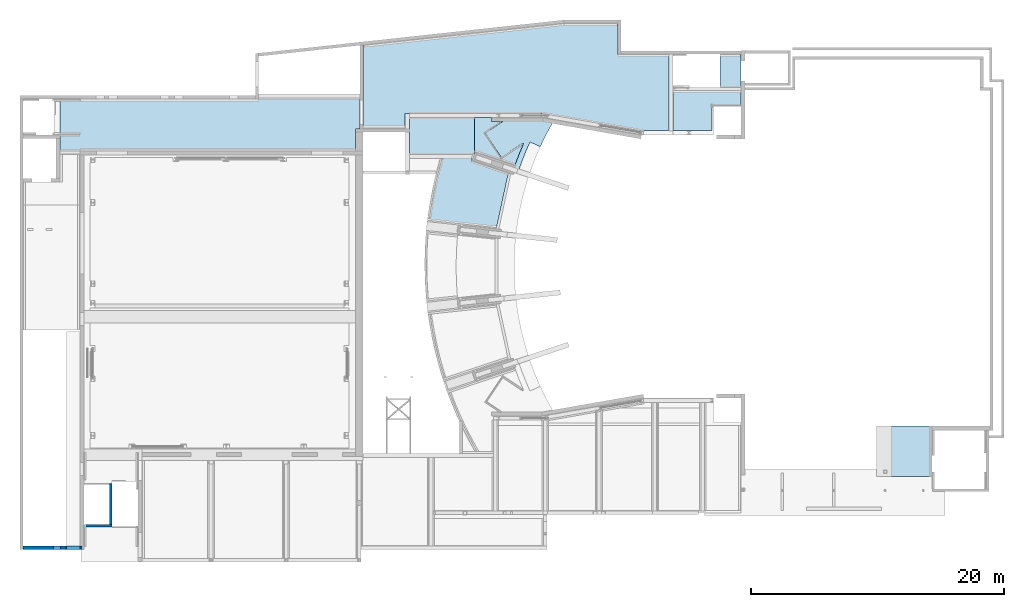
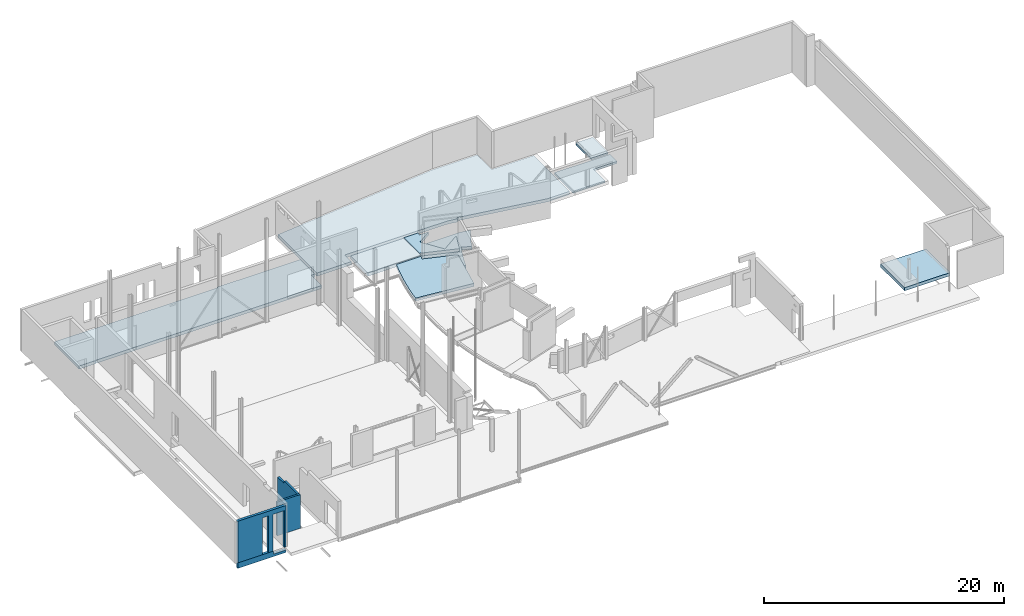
# One storey, part 25 of 37: 8 slabs, 4 walls, 18 openings.
"""IFC2X3 building model written with IfcOpenShell, lengths in millimetres."""

from ifc_helpers import new_model, entity, si_unit, converted_unit, derived_unit, direction, frame, frame_2d, origin, origin_2d_with_axis, place, context, subcontext, project, spatial, polyline, circle_curve, parameter, trimmed, segment, composite_curve, rectangle, outline, extrude, clip, bounded_halfspace, faceted_brep, material, layer, layer_set, layer_usage, type_object, element, save


model = new_model("IFC2X3")

# Units and contexts
model_context = context("Model", 3, precision=0.01, world=origin(), true_north=direction((6.12303176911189e-17, 1.0)))
body_context = subcontext(model_context, "Body", "Model", "MODEL_VIEW")
ifc_project = project(units=[si_unit("LENGTHUNIT", "METRE", prefix="MILLI"), si_unit("AREAUNIT", "SQUARE_METRE", prefix="MILLI"), si_unit("VOLUMEUNIT", "CUBIC_METRE"), converted_unit("PLANEANGLEUNIT", "DEGREE", entity("IfcRatioMeasure", 0.0174532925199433), si_unit("PLANEANGLEUNIT", "RADIAN"), dimensions=[0, 0, 0, 0, 0, 0, 0]), si_unit("MASSUNIT", "GRAM", prefix="KILO"), derived_unit("MASSDENSITYUNIT", [(si_unit("MASSUNIT", "GRAM", prefix="KILO"), 1), (si_unit("LENGTHUNIT", "METRE"), -3)]), derived_unit("MOMENTOFINERTIAUNIT", [(si_unit("LENGTHUNIT", "METRE"), 4)]), si_unit("TIMEUNIT", "SECOND"), si_unit("FREQUENCYUNIT", "HERTZ"), si_unit("THERMODYNAMICTEMPERATUREUNIT", "DEGREE_CELSIUS"), derived_unit("THERMALTRANSMITTANCEUNIT", [(si_unit("MASSUNIT", "GRAM", prefix="KILO"), 1), (si_unit("THERMODYNAMICTEMPERATUREUNIT", "KELVIN"), -1), (si_unit("TIMEUNIT", "SECOND"), -3)]), derived_unit("VOLUMETRICFLOWRATEUNIT", [(si_unit("LENGTHUNIT", "METRE"), 3), (si_unit("TIMEUNIT", "SECOND"), -1)]), si_unit("ELECTRICCURRENTUNIT", "AMPERE"), si_unit("ELECTRICVOLTAGEUNIT", "VOLT"), si_unit("POWERUNIT", "WATT"), si_unit("FORCEUNIT", "NEWTON", prefix="KILO"), si_unit("ILLUMINANCEUNIT", "LUX"), si_unit("LUMINOUSFLUXUNIT", "LUMEN"), si_unit("LUMINOUSINTENSITYUNIT", "CANDELA"), derived_unit("USERDEFINED", [(si_unit("MASSUNIT", "GRAM", prefix="KILO"), -1), (si_unit("LENGTHUNIT", "METRE"), -2), (si_unit("TIMEUNIT", "SECOND"), 3), (si_unit("LUMINOUSFLUXUNIT", "LUMEN"), 1)]), derived_unit("LINEARVELOCITYUNIT", [(si_unit("LENGTHUNIT", "METRE"), 1), (si_unit("TIMEUNIT", "SECOND"), -1)]), si_unit("PRESSUREUNIT", "PASCAL"), derived_unit("USERDEFINED", [(si_unit("LENGTHUNIT", "METRE"), -2), (si_unit("MASSUNIT", "GRAM", prefix="KILO"), 1), (si_unit("TIMEUNIT", "SECOND"), -2)]), derived_unit("LINEARFORCEUNIT", [(si_unit("MASSUNIT", "GRAM", prefix="KILO"), 1), (si_unit("LENGTHUNIT", "METRE"), 1), (si_unit("TIMEUNIT", "SECOND"), -2), (si_unit("LENGTHUNIT", "METRE"), -1)]), derived_unit("PLANARFORCEUNIT", [(si_unit("MASSUNIT", "GRAM", prefix="KILO"), 1), (si_unit("LENGTHUNIT", "METRE"), 1), (si_unit("TIMEUNIT", "SECOND"), -2), (si_unit("LENGTHUNIT", "METRE"), -2)])], contexts=[model_context])

# Site, building, storey
site_placement = place(None, origin())
site = spatial("IfcSite", under=ifc_project, at=site_placement, Name="Theater aan de Parade", CompositionType="ELEMENT")
building_placement = place(site_placement, origin())
building = spatial("IfcBuilding", under=site, at=building_placement, Name="Theater aan de Parade", CompositionType="ELEMENT")
storey_placement = place(building_placement, frame((0.0, 0.0, 5020.0)))
storey = spatial("IfcBuildingStorey", under=building, at=storey_placement, Name="01 eerste verdieping", CompositionType="ELEMENT", Elevation=5020.0)

# Slab
ifc_material_1 = material(Name="00_PBT_MAT_beton t.p.g.")
ifc_layer_1 = layer(ifc_material_1, 490.0)
ifc_layer_set_1 = layer_set([ifc_layer_1], Name="Floor:28_PBT_FL_beton t.p.g._d=490_bestaand")
ifc_layer_usage_1 = layer_usage(ifc_layer_set_1, "AXIS3", "POSITIVE", 0.0)
slab_type_1 = type_object("IfcSlabType", Name="Floor:28_PBT_FL_beton t.p.g._d=490_bestaand", PredefinedType="FLOOR", material=ifc_layer_set_1)
slab_1_placement = place(storey_placement, origin())
element("IfcSlab", 1, at=slab_1_placement, inside=storey, type_object=slab_type_1, material=ifc_layer_usage_1, Name="Floor:28_PBT_FL_beton t.p.g._d=490_bestaand", ObjectType="Floor:28_PBT_FL_beton t.p.g._d=490_bestaand", PredefinedType="FLOOR", context=body_context, shape_type="SweptSolid", body=[
    extrude(outline(composite_curve([segment(polyline([(-2513.60277718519, -1715.41560530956), (1729.65019978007, -1715.41560530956)]), True, "CONTINUOUS"), segment(polyline([(1729.65019978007, -1715.41560530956), (2631.49304979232, -1557.59310655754)]), True, "CONTINUOUS"), segment(trimmed(circle_curve(frame_2d((22293.5981565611, 10044.5843946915), x_axis=(-0.861239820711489, -0.508198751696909)), 22830.0000000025), [parameter(353.987494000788)], [parameter(0.0)], True, "PARAMETER"), False, "CONTINUOUS"), segment(polyline([(1524.37688546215, 565.747557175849), (705.616519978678, 192.074620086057)]), True, "CONTINUOUS"), segment(trimmed(circle_curve(frame_2d((22293.5981565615, 10044.5843946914), x_axis=(-0.909733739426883, -0.415192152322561)), 23730.0000000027), [parameter(353.482666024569)], [parameter(0.0)], True, "PARAMETER"), False, "CONTINUOUS"), segment(polyline([(-273.169780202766, 2706.06377481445), (-3804.36409762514, 1524.53836510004)]), True, "CONTINUOUS"), segment(trimmed(circle_curve(frame_2d((22293.5981565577, 10044.5843946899), x_axis=(-0.950624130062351, -0.310344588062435)), 27453.5028396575), [parameter(0.0)], [parameter(7.28356885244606)], True, "PARAMETER"), True, "CONTINUOUS")], self_intersect=False)), frame((49966.4018434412, 42494.5843946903, -1420.0), z_axis=(0.0, 0.0, -1.0), x_axis=(1.0, 0.0, 0.0)), (0.0, 0.0, 1.0), 290.0),
])

# Slab, openings
ifc_material_2 = material(Name="00_PBT_MAT_systeemvloer")
ifc_layer_2 = layer(ifc_material_2, 320.0)
ifc_layer_set_2 = layer_set([ifc_layer_2], Name="Floor:28_PBT_FL_kanaalplaat_d=320")
ifc_layer_usage_2 = layer_usage(ifc_layer_set_2, "AXIS3", "POSITIVE", 0.0)
slab_type_2 = type_object("IfcSlabType", Name="Floor:28_PBT_FL_kanaalplaat_d=320", PredefinedType="FLOOR")
slab_2_placement = place(storey_placement, frame((37453.8581740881, 41330.0, -460.0)))
slab_2 = element("IfcSlab", 2, at=slab_2_placement, inside=storey, type_object=slab_type_2, material=ifc_layer_usage_2, Name="Floor:28_PBT_FL_kanaalplaat_d=320", ObjectType="Floor:28_PBT_FL_kanaalplaat_d=320", PredefinedType="FLOOR", context=body_context, shape_type="SweptSolid", body=[
    extrude(outline(polyline([(8765.0120877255, -3045.25955352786), (12105.0120411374, -3045.25955352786), (12105.0120411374, 3437.75660303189), (-3815.5277632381, 5165.259559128), (-8078.16134809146, 5165.25955912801), (-8078.16134809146, 2726.30493128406), (-12275.0120411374, 2726.30493128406), (-12275.0120411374, -3460.25955352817), (-9924.67582607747, -3460.25955352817), (-1181.8186832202, -1930.25955352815), (8765.0120877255, -1930.25955352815), (8765.0120877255, -3045.25955352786)])), frame((12105.0120411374, 5165.259559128, 320.0), z_axis=(0.0, 0.0, -1.0), x_axis=(-1.0, 0.0, 0.0)), (0.0, 0.0, 1.0), 320.0),
])
placement_1 = place(slab_2_placement, origin())
element("IfcOpeningElement", 3, at=placement_1, cuts=slab_2, ObjectType="Opening", context=body_context, shape_type="SweptSolid", body=[
    extrude(rectangle(XDim=339.999999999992, YDim=4820.00000559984, at=origin_2d_with_axis()), frame((3509.99995341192, 805.000002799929, 0.0), z_axis=(0.0, 0.0, 1.0), x_axis=(-1.0, 0.0, 0.0)), (0.0, 0.0, 1.0), 320.0),
])
placement_2 = place(slab_2_placement, origin())
element("IfcOpeningElement", 4, at=placement_2, cuts=slab_2, ObjectType="Opening", context=body_context, shape_type="SweptSolid", body=[
    extrude(rectangle(XDim=340.000000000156, YDim=8227.18093451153, at=origin_2d_with_axis()), frame((18142.8869804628, 2385.19016078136, -5.0), z_axis=(0.0, 0.0, 1.0), x_axis=(0.172380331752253, 0.985030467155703, 0.0)), (0.0, 0.0, 1.0), 325.0),
])
placement_3 = place(slab_2_placement, frame((24530.0240822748, 4911.86312279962, -5.0)))
element("IfcOpeningElement", 5, at=placement_3, cuts=slab_2, ObjectType="Opening", context=body_context, shape_type="Brep", body=[
    faceted_brep([(1.0, 0.0, 2.0), (1.0, 105.0, 2.0), (0.0, 105.0, 2.0), (0.0, 0.0, 2.0), (0.0, 0.0, 1.0), (0.0, 105.0, 1.0), (1.0, 105.0, 1.0), (1.0, 0.0, 1.0), (5371.37384459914, 405.0, 2.0), (5372.37384459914, 405.0, 2.0), (5371.37384459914, 510.0, 2.0), (5372.37384459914, 510.0, 2.0), (5371.37384459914, 510.0, 1.0), (5372.37384459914, 510.0, 1.0), (5372.37384459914, 405.0, 1.0), (5371.37384459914, 405.0, 1.0), (5371.37384459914, 0.0, 2.0), (5372.37384459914, 0.0, 2.0), (5371.37384459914, 105.0, 2.0), (5372.37384459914, 105.0, 2.0), (5371.37384459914, 105.0, 1.0), (5372.37384459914, 105.0, 1.0), (5372.37384459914, 0.0, 1.0), (5371.37384459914, 0.0, 1.0), (5372.37384459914, 105.0, 325.0), (5372.37384459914, 405.0, 325.0), (0.0, 405.0, 325.0), (0.0, 105.0, 325.0), (5372.37384459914, 105.0, 0.0), (5372.37384459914, 405.0, 0.0), (0.0, 405.0, 0.0), (0.0, 105.0, 0.0)], [[[0, 1, 2]], [[2, 3, 0]], [[4, 5, 6]], [[6, 7, 4]], [[0, 3, 4]], [[4, 7, 0]], [[1, 0, 7]], [[7, 6, 1]], [[8, 9, 10]], [[11, 10, 9]], [[12, 13, 14]], [[14, 15, 12]], [[10, 11, 13]], [[13, 12, 10]], [[8, 10, 12]], [[12, 15, 8]], [[16, 17, 18]], [[19, 18, 17]], [[20, 21, 22]], [[22, 23, 20]], [[16, 18, 20]], [[20, 23, 16]], [[17, 16, 23]], [[23, 22, 17]], [[24, 25, 26]], [[26, 27, 24]], [[17, 22, 21]], [[14, 21, 28]], [[28, 29, 14]], [[11, 14, 13]], [[14, 9, 21]], [[25, 24, 19]], [[21, 9, 19]], [[9, 14, 11]], [[19, 9, 25]], [[19, 17, 21]], [[30, 5, 2]], [[5, 30, 31]], [[4, 3, 5]], [[2, 26, 30]], [[26, 2, 27]], [[3, 2, 5]], [[14, 29, 15]], [[25, 9, 8]], [[15, 30, 8]], [[30, 15, 29]], [[8, 26, 25]], [[26, 8, 30]], [[24, 18, 19]], [[18, 24, 27]], [[28, 21, 20]], [[28, 20, 31]], [[18, 6, 20]], [[1, 27, 2]], [[27, 1, 18]], [[6, 5, 31]], [[6, 31, 20]], [[1, 6, 18]], [[29, 28, 31]], [[31, 30, 29]]]),
])
placement_4 = place(slab_2_placement, origin())
element("IfcOpeningElement", 6, at=placement_4, cuts=slab_2, ObjectType="Opening", context=body_context, shape_type="SweptSolid", body=[
    extrude(rectangle(XDim=6076.99799087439, YDim=340.000000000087, at=origin_2d_with_axis()), frame((24380.0240822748, 4893.49900103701, 0.0), z_axis=(0.0, 0.0, 1.0), x_axis=(0.0, 1.0, 0.0)), (0.0, 0.0, 1.0), 320.0),
])
placement_5 = place(slab_2_placement, origin())
element("IfcOpeningElement", 7, at=placement_5, cuts=slab_2, ObjectType="Opening", context=body_context, shape_type="SweptSolid", body=[
    extrude(rectangle(XDim=5572.29999999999, YDim=340.000000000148, at=origin_2d_with_axis()), frame((24853.8766777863, 1705.00000559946, -5.0)), (0.0, 0.0, 1.0), 325.0),
])

slab_type_3 = type_object("IfcSlabType", Name="Floor:28_PBT_FL_kanaalplaat_d=320", PredefinedType="FLOOR", material=ifc_layer_set_2)
slab_3_placement = place(storey_placement, frame((37453.8581740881, 41330.0, -460.0)))
slab_3 = element("IfcSlab", 8, at=slab_3_placement, inside=storey, type_object=slab_type_3, material=ifc_layer_usage_2, Name="Floor:28_PBT_FL_kanaalplaat_d=320:2", ObjectType="Floor:28_PBT_FL_kanaalplaat_d=320", PredefinedType="FLOOR", context=body_context, shape_type="SweptSolid", body=[
    extrude(rectangle(XDim=5124.44819671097, YDim=2895.00000559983, at=frame_2d((5862.78798937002, -3717.75955632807), x_axis=(1.0, 0.0))), frame((12105.0120411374, 5165.259559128, 320.0), z_axis=(0.0, 0.0, -1.0), x_axis=(-1.0, 0.0, 0.0)), (0.0, 0.0, 1.0), 320.0),
])
element("IfcOpeningElement", 9, at=placement_1, cuts=slab_3, ObjectType="Opening", context=body_context, shape_type="SweptSolid", body=[
    extrude(rectangle(XDim=339.999999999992, YDim=4820.00000559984, at=origin_2d_with_axis()), frame((3509.99995341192, 805.000002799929, 0.0), z_axis=(0.0, 0.0, 1.0), x_axis=(-1.0, 0.0, 0.0)), (0.0, 0.0, 1.0), 320.0),
])
element("IfcOpeningElement", 10, at=placement_2, cuts=slab_3, ObjectType="Opening", context=body_context, shape_type="SweptSolid", body=[
    extrude(rectangle(XDim=340.000000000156, YDim=8227.18093451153, at=origin_2d_with_axis()), frame((18142.8869804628, 2385.19016078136, -5.0), z_axis=(0.0, 0.0, 1.0), x_axis=(0.172380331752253, 0.985030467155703, 0.0)), (0.0, 0.0, 1.0), 325.0),
])
element("IfcOpeningElement", 11, at=placement_3, cuts=slab_3, ObjectType="Opening", context=body_context, shape_type="Brep", body=[
    faceted_brep([(1.0, 0.0, 2.0), (1.0, 105.0, 2.0), (0.0, 105.0, 2.0), (0.0, 0.0, 2.0), (0.0, 0.0, 1.0), (0.0, 105.0, 1.0), (1.0, 105.0, 1.0), (1.0, 0.0, 1.0), (5371.37384459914, 405.0, 2.0), (5372.37384459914, 405.0, 2.0), (5371.37384459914, 510.0, 2.0), (5372.37384459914, 510.0, 2.0), (5371.37384459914, 510.0, 1.0), (5372.37384459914, 510.0, 1.0), (5372.37384459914, 405.0, 1.0), (5371.37384459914, 405.0, 1.0), (5371.37384459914, 0.0, 2.0), (5372.37384459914, 0.0, 2.0), (5371.37384459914, 105.0, 2.0), (5372.37384459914, 105.0, 2.0), (5371.37384459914, 105.0, 1.0), (5372.37384459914, 105.0, 1.0), (5372.37384459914, 0.0, 1.0), (5371.37384459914, 0.0, 1.0), (5372.37384459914, 105.0, 325.0), (5372.37384459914, 405.0, 325.0), (0.0, 405.0, 325.0), (0.0, 105.0, 325.0), (5372.37384459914, 105.0, 0.0), (5372.37384459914, 405.0, 0.0), (0.0, 405.0, 0.0), (0.0, 105.0, 0.0)], [[[0, 1, 2]], [[2, 3, 0]], [[4, 5, 6]], [[6, 7, 4]], [[0, 3, 4]], [[4, 7, 0]], [[1, 0, 7]], [[7, 6, 1]], [[8, 9, 10]], [[11, 10, 9]], [[12, 13, 14]], [[14, 15, 12]], [[10, 11, 13]], [[13, 12, 10]], [[8, 10, 12]], [[12, 15, 8]], [[16, 17, 18]], [[19, 18, 17]], [[20, 21, 22]], [[22, 23, 20]], [[16, 18, 20]], [[20, 23, 16]], [[17, 16, 23]], [[23, 22, 17]], [[24, 25, 26]], [[26, 27, 24]], [[17, 22, 21]], [[14, 21, 28]], [[28, 29, 14]], [[11, 14, 13]], [[14, 9, 21]], [[25, 24, 19]], [[21, 9, 19]], [[9, 14, 11]], [[19, 9, 25]], [[19, 17, 21]], [[30, 5, 2]], [[5, 30, 31]], [[4, 3, 5]], [[2, 26, 30]], [[26, 2, 27]], [[3, 2, 5]], [[14, 29, 15]], [[25, 9, 8]], [[15, 30, 8]], [[30, 15, 29]], [[8, 26, 25]], [[26, 8, 30]], [[24, 18, 19]], [[18, 24, 27]], [[28, 21, 20]], [[28, 20, 31]], [[18, 6, 20]], [[1, 27, 2]], [[27, 1, 18]], [[6, 5, 31]], [[6, 31, 20]], [[1, 6, 18]], [[29, 28, 31]], [[31, 30, 29]]]),
])
element("IfcOpeningElement", 12, at=placement_4, cuts=slab_3, ObjectType="Opening", context=body_context, shape_type="SweptSolid", body=[
    extrude(rectangle(XDim=6076.99799087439, YDim=340.000000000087, at=origin_2d_with_axis()), frame((24380.0240822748, 4893.49900103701, 0.0), z_axis=(0.0, 0.0, 1.0), x_axis=(0.0, 1.0, 0.0)), (0.0, 0.0, 1.0), 320.0),
])
element("IfcOpeningElement", 13, at=placement_5, cuts=slab_3, ObjectType="Opening", context=body_context, shape_type="SweptSolid", body=[
    extrude(rectangle(XDim=5572.29999999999, YDim=340.000000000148, at=origin_2d_with_axis()), frame((24853.8766777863, 1705.00000559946, -5.0)), (0.0, 0.0, 1.0), 325.0),
])

# Slab
ifc_material_3 = material(Name="00_PBT_MAT_beton t.p.g._C30/37")
ifc_layer_3 = layer(ifc_material_3, 320.0)
ifc_layer_set_3 = layer_set([ifc_layer_3], Name="Floor:28_PBT_FL_beton t.p.g._d=320_C30/37")
ifc_layer_usage_3 = layer_usage(ifc_layer_set_3, "AXIS3", "POSITIVE", 0.0)
slab_type_4 = type_object("IfcSlabType", Name="Floor:28_PBT_FL_beton t.p.g._d=320_C30/37", PredefinedType="FLOOR", material=ifc_layer_set_3)
slab_4_placement = place(storey_placement, origin())
element("IfcSlab", 14, at=slab_4_placement, inside=storey, type_object=slab_type_4, material=ifc_layer_usage_3, Name="Floor:28_PBT_FL_beton t.p.g._d=320_C30/37", ObjectType="Floor:28_PBT_FL_beton t.p.g._d=320_C30/37", PredefinedType="FLOOR", context=body_context, shape_type="SweptSolid", body=[
    extrude(rectangle(XDim=4000.00414805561, YDim=4399.90838921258, at=frame_2d((-1.02318153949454e-12, 0.0), x_axis=(1.0, 0.0))), frame((80300.0542271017, 17809.9981694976, 900.0), z_axis=(0.0, 0.0, -1.0), x_axis=(0.0, 1.0, 0.0)), (0.0, 0.0, 1.0), 320.0),
])

# Slab, opening
ifc_layer_4 = layer(ifc_material_3, 300.0)
ifc_layer_set_4 = layer_set([ifc_layer_4], Name="Floor:28_PBT_FL_staalplaatbeton_d=300_C30/37")
ifc_layer_usage_4 = layer_usage(ifc_layer_set_4, "AXIS3", "POSITIVE", 0.0)
slab_type_5 = type_object("IfcSlabType", Name="Floor:28_PBT_FL_staalplaatbeton_d=300_C30/37", PredefinedType="FLOOR")
slab_5_placement = place(storey_placement, frame((42505.2918154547, 17701.3084468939, -380.0)))
slab_5 = element("IfcSlab", 15, at=slab_5_placement, inside=storey, type_object=slab_type_5, material=ifc_layer_usage_4, Name="Floor:28_PBT_FL_staalplaatbeton_d=300_C30/37:2", ObjectType="Floor:28_PBT_FL_staalplaatbeton_d=300_C30/37", PredefinedType="FLOOR", context=body_context, shape_type="SweptSolid", body=[
    extrude(outline(composite_curve([segment(polyline([(-1270.16874224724, 13261.8457765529), (-1270.16874224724, 12946.845776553)]), True, "CONTINUOUS"), segment(polyline([(-1270.16874224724, 12946.845776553), (-2141.32877408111, 12946.845776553)]), True, "CONTINUOUS"), segment(polyline([(-2141.32877408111, 12946.845776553), (-780.484503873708, 12031.2146090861)]), True, "CONTINUOUS"), segment(polyline([(-780.484503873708, 12031.2146090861), (-2070.02208237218, 10114.6570613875)]), True, "CONTINUOUS"), segment(polyline([(-2070.02208237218, 10114.6570613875), (-3720.29601988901, 11225.0282369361)]), True, "CONTINUOUS"), segment(polyline([(-3720.29601988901, 11225.0282369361), (-3826.68722625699, 11225.0282369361)]), True, "CONTINUOUS"), segment(trimmed(circle_curve(frame_2d((-25889.4071941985, 1457.30986497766), x_axis=(-1.0, 0.0)), 24128.2393592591), [parameter(199.583396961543)], [parameter(203.880171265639)], True, "PARAMETER"), False, "CONTINUOUS"), segment(polyline([(-3156.87501874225, 9544.5785924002), (82.5115678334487, 10628.4661442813)]), True, "CONTINUOUS"), segment(polyline([(82.5115678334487, 10628.4661442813), (82.51156783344, 13261.8457765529)]), True, "CONTINUOUS"), segment(polyline([(82.51156783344, 13261.8457765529), (-1270.16874224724, 13261.8457765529)]), True, "CONTINUOUS")], self_intersect=False)), frame((3835.52607658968, 13261.8457765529, 300.0), z_axis=(0.0, 0.0, -1.0), x_axis=(-1.0, 0.0, 0.0)), (0.0, 0.0, 1.0), 300.0),
])
placement_6 = place(storey_placement, frame((42505.2918154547, 17701.3084468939, -380.0)))
placement_7 = place(placement_6, origin())
element("IfcOpeningElement", 16, at=placement_7, cuts=slab_5, ObjectType="Opening", context=body_context, shape_type="SweptSolid", body=[
    extrude(rectangle(XDim=339.999999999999, YDim=10317.5533907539, at=origin_2d_with_axis()), frame((107.343010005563, -201.064071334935, -85.0), z_axis=(0.0, 0.0, 1.0), x_axis=(0.0, -1.0, 0.0)), (0.0, 0.0, 1.0), 324.999999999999),
])

slab_type_6 = type_object("IfcSlabType", Name="Floor:28_PBT_FL_staalplaatbeton_d=300_C30/37", PredefinedType="FLOOR")
slab_6_placement = place(storey_placement, frame((42505.2918154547, 17701.3084468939, -380.0)))
slab_6 = element("IfcSlab", 17, at=slab_6_placement, inside=storey, type_object=slab_type_6, material=ifc_layer_usage_4, Name="Floor:28_PBT_FL_staalplaatbeton_d=300_C30/37:3", ObjectType="Floor:28_PBT_FL_staalplaatbeton_d=300_C30/37", PredefinedType="FLOOR", context=body_context, shape_type="SweptSolid", body=[
    extrude(outline(composite_curve([segment(polyline([(-2605.56106595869, 8843.27247007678), (-1679.44328783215, 4568.99626133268)]), True, "CONTINUOUS"), segment(polyline([(-1679.44328783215, 4568.99626133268), (3625.83619237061, 5139.07196856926)]), True, "CONTINUOUS"), segment(trimmed(circle_curve(frame_2d((-25480.0944842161, 1635.34252695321), x_axis=(-1.0, 0.0)), 29316.0590896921), [parameter(186.86415331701)], [parameter(196.980211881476)], True, "PARAMETER"), True, "CONTINUOUS"), segment(polyline([(2557.95078918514, 10196.8457709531), (191.647291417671, 10196.8457709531)]), True, "CONTINUOUS"), segment(polyline([(191.647291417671, 10196.8457709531), (317.317785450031, 9821.25762807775)]), True, "CONTINUOUS"), segment(polyline([(317.317785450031, 9821.25762807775), (-2605.56106595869, 8843.27247007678)]), True, "CONTINUOUS")], self_intersect=False)), frame((3835.52607658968, 13261.8457765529, 300.0), z_axis=(0.0, 0.0, -1.0), x_axis=(-1.0, 0.0, 0.0)), (0.0, 0.0, 1.0), 300.0),
])
element("IfcOpeningElement", 18, at=placement_7, cuts=slab_6, ObjectType="Opening", context=body_context, shape_type="SweptSolid", body=[
    extrude(rectangle(XDim=339.999999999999, YDim=10317.5533907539, at=origin_2d_with_axis()), frame((107.343010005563, -201.064071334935, -85.0), z_axis=(0.0, 0.0, 1.0), x_axis=(0.0, -1.0, 0.0)), (0.0, 0.0, 1.0), 324.999999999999),
])

# Slab
ifc_layer_usage_5 = layer_usage(ifc_layer_set_2, "AXIS3", "POSITIVE", 0.0)
slab_type_7 = type_object("IfcSlabType", Name="Floor:28_PBT_FL_kanaalplaat_d=320", PredefinedType="FLOOR", material=ifc_layer_set_2)
slab_7_placement = place(storey_placement, origin())
element("IfcSlab", 19, at=slab_7_placement, inside=storey, type_object=slab_type_7, material=ifc_layer_usage_5, Name="Floor:28_PBT_FL_kanaalplaat_d=320", ObjectType="Floor:28_PBT_FL_kanaalplaat_d=320", PredefinedType="FLOOR", context=body_context, shape_type="SweptSolid", body=[
    extrude(outline(polyline([(-2010.61500374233, -12896.2085637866), (2069.07666916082, -12896.2085637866), (2069.07666916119, 2837.83200000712), (2176.07666916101, 2837.83200000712), (2176.07666916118, 10852.792563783), (-253.9233308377, 10852.7925637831), (-253.9233308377, 10502.792563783), (-1980.61500374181, 10502.792563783), (-1980.61500374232, -11297.2085637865), (-2010.61500374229, -11297.2085637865), (-2010.61500374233, -12896.2085637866)])), frame((26351.0655663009, 43603.9233308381, -80.0), z_axis=(0.0, 0.0, -1.0), x_axis=(0.0, 1.0, 0.0)), (0.0, 0.0, 1.0), 320.0),
])

# Slab, opening
ifc_layer_5 = layer(ifc_material_2, 200.0)
ifc_layer_set_5 = layer_set([ifc_layer_5], Name="Floor:28_PBT_FL_massieve plaat_d=200")
ifc_layer_usage_6 = layer_usage(ifc_layer_set_5, "AXIS3", "POSITIVE", 0.0)
slab_type_8 = type_object("IfcSlabType", Name="Floor:28_PBT_FL_massieve plaat_d=200", PredefinedType="FLOOR", material=ifc_layer_set_5)
slab_8_placement = place(storey_placement, frame((62001.4285714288, 43205.0, -460.0)))
slab_8 = element("IfcSlab", 20, at=slab_8_placement, inside=storey, type_object=slab_type_8, material=ifc_layer_usage_6, Name="Floor:28_PBT_FL_massieve plaat_d=200", ObjectType="Floor:28_PBT_FL_massieve plaat_d=200", PredefinedType="FLOOR", context=body_context, shape_type="SweptSolid", body=[
    extrude(outline(polyline([(-383.209739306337, -1065.71841674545), (-383.209739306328, -3003.28224240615), (2677.41376476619, -3003.28224240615), (2677.41376476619, 138.580874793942), (-1035.039920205, 138.580874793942), (-1035.039920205, 3003.28224240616), (-2677.41376476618, 3003.28224240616), (-2677.41376476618, -1065.71841674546), (-383.209739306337, -1065.71841674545)])), frame((2677.41376476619, 3003.28224240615, 200.0), z_axis=(0.0, 0.0, -1.0), x_axis=(-1.0, 0.0, 0.0)), (0.0, 0.0, 1.0), 200.0),
])
opening_13_placement = place(slab_8_placement, frame((-17.546315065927, 3036.8631172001, -5.0)))
element("IfcOpeningElement", 21, at=opening_13_placement, cuts=slab_8, ObjectType="Opening", context=body_context, shape_type="Brep", body=[
    faceted_brep([(5372.37384459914, 0.0, 2.0), (5372.37384459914, 0.0, 1.0), (5372.37384459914, 105.0, 1.0), (5372.37384459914, 405.0, 1.0), (5372.37384459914, 105.0, 0.0), (5372.37384459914, 405.0, 0.0), (5372.37384459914, 510.0, 2.0), (5372.37384459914, 510.0, 1.0), (5372.37384459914, 405.0, 2.0), (5372.37384459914, 405.0, 325.0), (5372.37384459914, 105.0, 325.0), (5372.37384459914, 105.0, 2.0), (0.0, 405.0, 0.0), (0.0, 105.0, 1.0), (0.0, 105.0, 2.0), (0.0, 105.0, 0.0), (0.0, 0.0, 1.0), (0.0, 0.0, 2.0), (0.0, 405.0, 325.0), (0.0, 105.0, 325.0), (5371.37384459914, 405.0, 1.0), (5371.37384459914, 405.0, 2.0), (5371.37384459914, 105.0, 2.0), (5371.37384459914, 105.0, 1.0), (1.0, 105.0, 1.0), (1.0, 105.0, 2.0), (1.0, 0.0, 2.0), (1.0, 0.0, 1.0), (5371.37384459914, 510.0, 2.0), (5371.37384459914, 510.0, 1.0), (5371.37384459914, 0.0, 2.0), (5371.37384459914, 0.0, 1.0)], [[[0, 1, 2]], [[3, 2, 4]], [[4, 5, 3]], [[6, 3, 7]], [[3, 8, 2]], [[9, 10, 11]], [[2, 8, 11]], [[8, 3, 6]], [[11, 8, 9]], [[11, 0, 2]], [[12, 13, 14]], [[13, 12, 15]], [[16, 17, 13]], [[14, 18, 12]], [[18, 14, 19]], [[17, 14, 13]], [[3, 5, 20]], [[9, 8, 21]], [[20, 12, 21]], [[12, 20, 5]], [[21, 18, 9]], [[18, 21, 12]], [[10, 9, 18]], [[18, 19, 10]], [[10, 22, 11]], [[22, 10, 19]], [[4, 2, 23]], [[4, 23, 15]], [[22, 24, 23]], [[25, 19, 14]], [[19, 25, 22]], [[24, 13, 15]], [[24, 15, 23]], [[25, 24, 22]], [[5, 4, 15]], [[15, 12, 5]], [[26, 25, 14]], [[14, 17, 26]], [[16, 13, 24]], [[24, 27, 16]], [[26, 17, 16]], [[16, 27, 26]], [[25, 26, 27]], [[27, 24, 25]], [[21, 8, 28]], [[6, 28, 8]], [[29, 7, 3]], [[3, 20, 29]], [[28, 6, 7]], [[7, 29, 28]], [[21, 28, 29]], [[29, 20, 21]], [[30, 0, 22]], [[11, 22, 0]], [[23, 2, 1]], [[1, 31, 23]], [[30, 22, 23]], [[23, 31, 30]], [[0, 30, 31]], [[31, 1, 0]]]),
])

# Wall, openings
ifc_layer_6 = layer(ifc_material_3, 250.0)
ifc_layer_set_6 = layer_set([ifc_layer_6], Name="Basic Wall:28_PBT_WA_beton t.p.g._d=250_C30/37")
ifc_layer_usage_7 = layer_usage(ifc_layer_set_6, "AXIS2", "NEGATIVE", 125.0)
wall_type_1 = type_object("IfcWallType", Name="Basic Wall:28_PBT_WA_beton t.p.g._d=250_C30/37", PredefinedType="STANDARD", material=ifc_layer_set_6)
wall_1_placement = place(storey_placement, frame((10554.1125537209, 10194.3270746, 0.0)))
wall_1 = element("IfcWallStandardCase", 22, at=wall_1_placement, inside=storey, type_object=wall_type_1, material=ifc_layer_usage_7, Name="Basic Wall:28_PBT_WA_beton t.p.g._d=250_C30/37", ObjectType="Basic Wall:28_PBT_WA_beton t.p.g._d=250_C30/37", context=body_context, shape_type="SweptSolid", body=[
    extrude(rectangle(XDim=4649.74444879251, YDim=249.999999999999, at=frame_2d((2324.87222439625, -2.41584530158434e-13), x_axis=(-1.0, 0.0))), origin(), (0.0, 0.0, 1.0), 4235.0),
])
opening_14_placement = place(wall_1_placement, origin())
element("IfcOpeningElement", 23, at=opening_14_placement, cuts=wall_1, Name="Basic Wall:28_PBT_WA_beton t.p.g._d=250_C30/37", ObjectType="Opening", context=body_context, shape_type="SweptSolid", body=[
    extrude(rectangle(XDim=3759.99999999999, YDim=581.000000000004, at=frame_2d((0.0, 1.08002495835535e-12), x_axis=(1.0, 0.0))), frame((2679.06809877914, -125.0, 1880.0), z_axis=(0.0, 1.0, 0.0), x_axis=(0.0, 0.0, -1.0)), (0.0, 0.0, 1.0), 249.999999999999),
])
opening_15_placement = place(wall_1_placement, origin())
element("IfcOpeningElement", 24, at=opening_15_placement, cuts=wall_1, Name="Basic Wall:28_PBT_WA_beton t.p.g._d=250_C30/37", ObjectType="Opening", context=body_context, shape_type="SweptSolid", body=[
    extrude(rectangle(XDim=3759.99999999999, YDim=1100.00000000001, at=origin_2d_with_axis()), frame((3949.98125856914, -125.0, 1880.0), z_axis=(0.0, 1.0, 0.0), x_axis=(0.0, 0.0, -1.0)), (0.0, 0.0, 1.0), 249.999999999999),
])

ifc_layer_usage_8 = layer_usage(ifc_layer_set_6, "AXIS2", "NEGATIVE", 125.0)
wall_2_placement = place(storey_placement, frame((10554.1125537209, 10194.3270746, -560.0)))
wall_2 = element("IfcWallStandardCase", 25, at=wall_2_placement, inside=storey, type_object=wall_type_1, material=ifc_layer_usage_8, Name="Basic Wall:28_PBT_WA_beton t.p.g._d=250_C30/37", ObjectType="Basic Wall:28_PBT_WA_beton t.p.g._d=250_C30/37", context=body_context, shape_type="Clipping", body=[
    clip(clip(extrude(rectangle(XDim=4649.74444879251, YDim=249.999999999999, at=frame_2d((2324.87222439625, -2.41584530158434e-13), x_axis=(-1.0, 0.0))), origin(), (0.0, 0.0, 1.0), 560.0), bounded_halfspace(frame((3440.00075843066, 125.0, 260.0), z_axis=(0.0, 0.0, -1.0), x_axis=(-1.0, 0.0, 0.0)), True, frame((3440.00075843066, 125.0, 260.0), z_axis=(0.0, 0.0, -1.0), x_axis=(-1.0, 0.0, 0.0)), polyline([(0.0, 0.0), (-1059.74369036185, 0.0), (-1209.74369036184, 0.0), (-1209.74369036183, -250.0), (-1129.74369036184, -250.0), (0.0, -250.0), (0.0, 0.0)]))), bounded_halfspace(frame((3440.00075843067, -125.0, 260.0), z_axis=(-1.0, 0.0, 0.0), x_axis=(0.0, 0.0, 1.0)), True, frame((3440.00075843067, -125.0, 260.0), z_axis=(-1.0, 0.0, 0.0), x_axis=(0.0, 0.0, 1.0)), polyline([(0.0, 0.0), (300.0, 0.0), (300.0, 250.0), (0.0, 250.0), (0.0, 0.0)]))),
])
opening_16_placement = place(wall_2_placement, origin())
element("IfcOpeningElement", 26, at=opening_16_placement, cuts=wall_2, Name="Basic Wall:28_PBT_WA_beton t.p.g._d=250_C30/37", ObjectType="Opening", context=body_context, shape_type="SweptSolid", body=[
    extrude(rectangle(XDim=3759.99999999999, YDim=1100.00000000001, at=origin_2d_with_axis()), frame((3949.98125856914, -125.0, 2440.0), z_axis=(0.0, 1.0, 0.0), x_axis=(0.0, 0.0, -1.0)), (0.0, 0.0, 1.0), 249.999999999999),
])
opening_17_placement = place(wall_2_placement, origin())
element("IfcOpeningElement", 27, at=opening_17_placement, cuts=wall_2, Name="Basic Wall:28_PBT_WA_beton t.p.g._d=250_C30/37", ObjectType="Opening", context=body_context, shape_type="SweptSolid", body=[
    extrude(rectangle(XDim=3759.99999999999, YDim=581.000000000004, at=frame_2d((0.0, 1.08002495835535e-12), x_axis=(1.0, 0.0))), frame((2679.06809877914, -125.0, 2440.0), z_axis=(0.0, 1.0, 0.0), x_axis=(0.0, 0.0, -1.0)), (0.0, 0.0, 1.0), 249.999999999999),
])
opening_18_placement = place(wall_2_placement, origin())
element("IfcOpeningElement", 28, at=opening_18_placement, cuts=wall_2, Name="Basic Wall:28_PBT_WA_beton t.p.g._d=250_C30/37", ObjectType="Opening", context=body_context, shape_type="SweptSolid", body=[
    extrude(rectangle(XDim=4549.99999999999, YDim=249.999999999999, at=frame_2d((0.0, 0.0), x_axis=(0.0, 1.0))), frame((-125.0, -125.0, -2275.0), z_axis=(0.0, 1.0, 0.0), x_axis=(-1.0, 0.0, 0.0)), (0.0, 0.0, 1.0), 5600.00000000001),
])

# Walls
ifc_layer_7 = layer(ifc_material_3, 200.0)
ifc_layer_set_7 = layer_set([ifc_layer_7], Name="Basic Wall:28_PBT_WA_beton t.p.g._d=200_C30/37")
ifc_layer_usage_9 = layer_usage(ifc_layer_set_7, "AXIS2", "NEGATIVE", 100.0)
wall_type_2 = type_object("IfcWallType", Name="Basic Wall:28_PBT_WA_beton t.p.g._d=200_C30/37", PredefinedType="STANDARD", material=ifc_layer_set_7)
wall_3_placement = place(storey_placement, frame((17603.857002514, 11919.3270746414, 0.0), z_axis=(0.0, 0.0, 1.0), x_axis=(-1.0, 0.0, 0.0)))
element("IfcWallStandardCase", 29, at=wall_3_placement, inside=storey, type_object=wall_type_2, material=ifc_layer_usage_9, Name="Basic Wall:28_PBT_WA_beton t.p.g._d=200_C30/37", ObjectType="Basic Wall:28_PBT_WA_beton t.p.g._d=200_C30/37", context=body_context, shape_type="SweptSolid", body=[
    extrude(rectangle(XDim=2250.00000000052, YDim=200.000000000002, at=frame_2d((1125.00000000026, -2.70006239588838e-13), x_axis=(-1.0, 0.0))), origin(), (0.0, 0.0, 1.0), 3440.0),
])
ifc_layer_usage_10 = layer_usage(ifc_layer_set_7, "AXIS2", "NEGATIVE", 100.0)
wall_4_placement = place(storey_placement, frame((17503.857002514, 15287.0518124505, 0.0), z_axis=(0.0, 0.0, 1.0), x_axis=(0.0, -1.0, 0.0)))
element("IfcWallStandardCase", 30, at=wall_4_placement, inside=storey, type_object=wall_type_2, material=ifc_layer_usage_10, Name="Basic Wall:28_PBT_WA_beton t.p.g._d=200_C30/37", ObjectType="Basic Wall:28_PBT_WA_beton t.p.g._d=200_C30/37", context=body_context, shape_type="Clipping", body=[
    clip(clip(clip(extrude(rectangle(XDim=3267.72473780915, YDim=199.999999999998, at=frame_2d((1633.86236890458, 4.40536496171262e-13), x_axis=(-1.0, 0.0))), origin(), (0.0, 0.0, 1.0), 3440.0), bounded_halfspace(frame((0.0, -100.0, 3180.0), z_axis=(0.0, 0.0, -1.0), x_axis=(1.0, 0.0, 0.0)), True, frame((0.0, -100.0, 3180.0)), polyline([(0.0, 0.0), (1100.76111612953, 0.0), (1100.76111612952, 200.0), (0.0, 200.0), (0.0, 0.0)]))), bounded_halfspace(frame((1100.76111612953, -100.0, 3440.0), z_axis=(0.0, 0.0, -1.0), x_axis=(0.0, -1.0, 0.0)), True, frame((1100.76111612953, -100.0, 3440.0)), polyline([(0.0, 0.0), (2166.96362167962, 0.0), (2166.96362167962, 200.0), (0.0, 200.0), (0.0, 0.0)]))), bounded_halfspace(frame((0.0, -100.0, 3180.0), z_axis=(0.0, 0.0, -1.0), x_axis=(1.0, 0.0, 0.0)), True, frame((0.0, -100.0, 3180.0)), polyline([(0.0, 0.0), (1100.76111612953, 0.0), (1100.76111612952, 200.0), (0.0, 200.0), (0.0, 0.0)]))),
])

save(model, "model.ifc")
